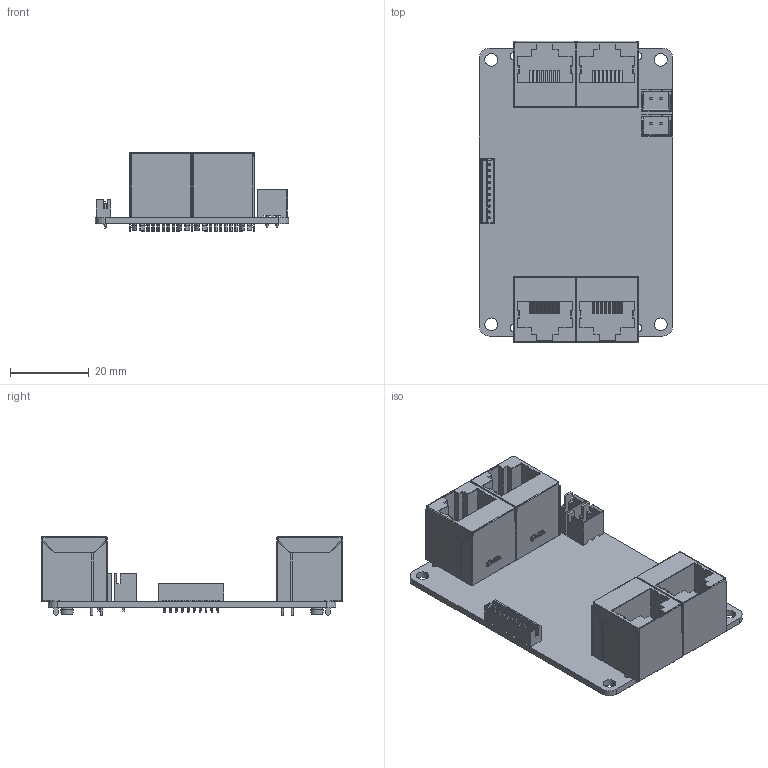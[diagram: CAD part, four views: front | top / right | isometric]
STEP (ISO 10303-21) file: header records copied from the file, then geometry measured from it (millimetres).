
FILE_DESCRIPTION(('Open CASCADE Model'),'2;1');
FILE_NAME('Open CASCADE Shape Model','2026-10-28T15:31:47',('Author'),( 'Open CASCADE'),'Open CASCADE STEP processor 7.7','Open CASCADE 7.7' ,'Unknown');
FILE_SCHEMA(('AUTOMOTIVE_DESIGN { 1 0 10303 214 1 1 1 1 }'));
Length unit declared in the file: millimetre
Products named in the file (18): FB4NW_assembly; PCB; PCB_part; RJ2; RJ2_part; RJ3; RJ3_part; RJ4; RJ4_part; RJ1; RJ1_part; J4; J4_part; J2; J2_part; J3; J3_part
Assembly tree (17 placements, depth 4):
  FB4NW_assembly
    FB4NW_assembly
      PCB
        PCB_part
      RJ2
        RJ2_part
      RJ3
        RJ3_part
      RJ4
        RJ4_part
      RJ1
        RJ1_part
      J4
        J4_part
      J2
        J2_part
      J3
        J3_part
Bounding box: 48.97 x 76.34 x 19.9 mm (x, y, z)
Volume: 17978.9 mm3; surface area: 28083.4 mm2
Topology: 22 solids, 22 shells, 3378 faces, 9049 edges, 5912 vertices
Faces by surface type: plane 2174, bspline 644, cylinder 496, cone 56, torus 8
Entity records: 235469 total; most frequent: CARTESIAN_POINT 62319, DIRECTION 28687, LINE 20687, VECTOR 20687, ORIENTED_EDGE 18098, PCURVE 18098, DEFINITIONAL_REPRESENTATION 18098, EDGE_CURVE 9049
